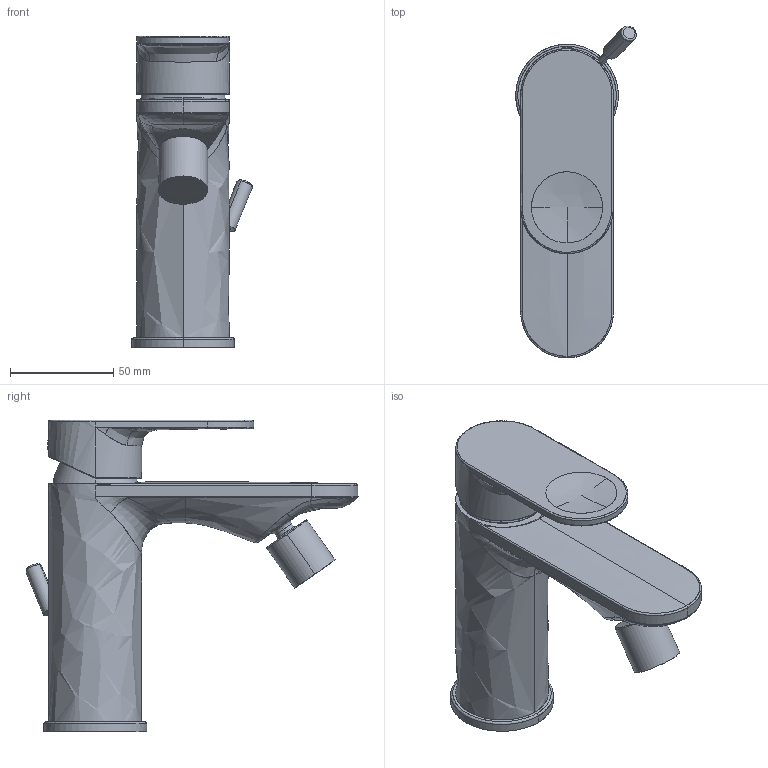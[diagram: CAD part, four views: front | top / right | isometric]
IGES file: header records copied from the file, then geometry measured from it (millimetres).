
Global section: file name: D:\01_Planungsdaten\_news19\Armaturen\B3\B32400001010\3D\B32400001010_neu.igs; native system: Rhinoceros ( Sep 13 2016 ); preprocessor: Trout Lake IGES 012 Sep 13 2016; date: 190226.095102; units: millimetre
Bounding box: 58.49 x 161.09 x 151.38 mm (x, y, z)
Surface area: 64520.6 mm2 (no closed solid volume)
Topology: 0 solids, 0 shells, 149 faces, 1103 edges, 1100 vertices
Faces by surface type: bspline 149
